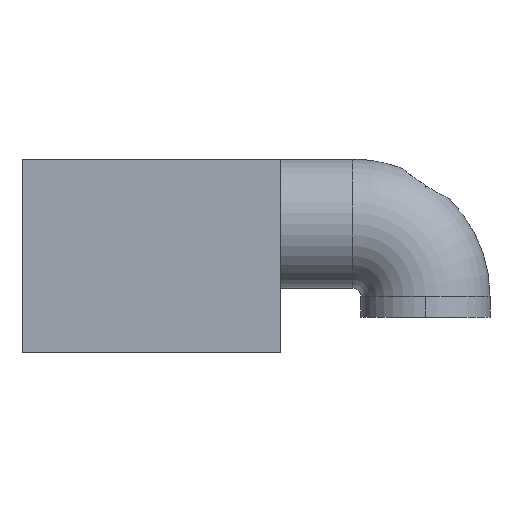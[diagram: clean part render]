
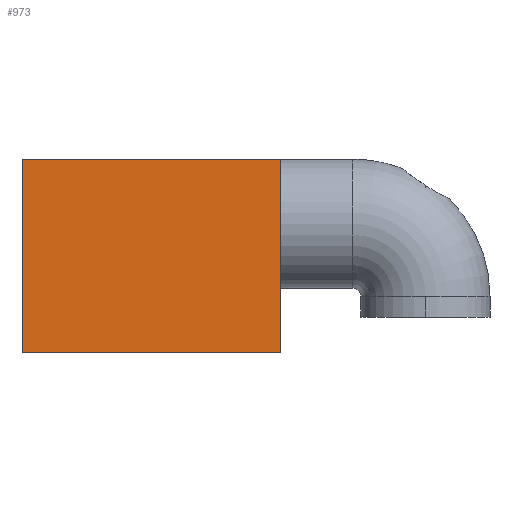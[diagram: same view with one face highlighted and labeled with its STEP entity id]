
A CAD part, left-side view. The second image highlights one B-rep face of the part: STEP entity #973.
In plain terms, the highlighted planar face has unit normal (-1, 0, 0).
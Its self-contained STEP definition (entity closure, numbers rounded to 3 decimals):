
#66 = EDGE_CURVE ( 'NONE', #462, #1476, #1333, .T. ) ;
#68 = EDGE_CURVE ( 'NONE', #1478, #462, #1329, .T. ) ;
#84 = EDGE_CURVE ( 'NONE', #1463, #1476, #1378, .T. ) ;
#110 = EDGE_CURVE ( 'NONE', #1478, #1463, #298, .T. ) ;
#174 = CARTESIAN_POINT ( 'NONE',  ( -37., -8., 12. ) ) ;
#206 = DIRECTION ( 'NONE',  ( 0., 0., -1. ) ) ;
#221 = DIRECTION ( 'NONE',  ( 0., 0., -1. ) ) ;
#298 = LINE ( 'NONE', #999, #300 ) ;
#300 = VECTOR ( 'NONE', #998, 1000. ) ;
#312 = FACE_OUTER_BOUND ( 'NONE', #1230, .T. ) ;
#374 = PLANE ( 'NONE',  #1189 ) ;
#376 = DIRECTION ( 'NONE',  ( 1., 0., 0. ) ) ;
#377 = DIRECTION ( 'NONE',  ( 0., 0., -1. ) ) ;
#408 = CARTESIAN_POINT ( 'NONE',  ( -37., -8., 12. ) ) ;
#462 = VERTEX_POINT ( 'NONE', #1056 ) ;
#597 = ORIENTED_EDGE ( 'NONE', *, *, #68, .T. ) ;
#598 = ORIENTED_EDGE ( 'NONE', *, *, #84, .F. ) ;
#622 = ORIENTED_EDGE ( 'NONE', *, *, #66, .T. ) ;
#624 = ORIENTED_EDGE ( 'NONE', *, *, #110, .F. ) ;
#896 = CARTESIAN_POINT ( 'NONE',  ( -37., -8., 0. ) ) ;
#900 = CARTESIAN_POINT ( 'NONE',  ( -37., 8., 12. ) ) ;
#901 = DIRECTION ( 'NONE',  ( 0., -1., 0. ) ) ;
#973 = ADVANCED_FACE ( 'NONE', ( #312 ), #374, .F. ) ;
#998 = DIRECTION ( 'NONE',  ( 0., -1., 0. ) ) ;
#999 = CARTESIAN_POINT ( 'NONE',  ( -37., -8., 12. ) ) ;
#1056 = CARTESIAN_POINT ( 'NONE',  ( -37., 8., 0. ) ) ;
#1189 = AXIS2_PLACEMENT_3D ( 'NONE', #408, #376, #377 ) ;
#1230 = EDGE_LOOP ( 'NONE', ( #622, #598, #624, #597 ) ) ;
#1329 = LINE ( 'NONE', #900, #1368 ) ;
#1333 = LINE ( 'NONE', #896, #1334 ) ;
#1334 = VECTOR ( 'NONE', #901, 1000. ) ;
#1368 = VECTOR ( 'NONE', #206, 1000. ) ;
#1378 = LINE ( 'NONE', #174, #1383 ) ;
#1383 = VECTOR ( 'NONE', #221, 1000. ) ;
#1463 = VERTEX_POINT ( 'NONE', #1556 ) ;
#1476 = VERTEX_POINT ( 'NONE', #1569 ) ;
#1478 = VERTEX_POINT ( 'NONE', #1571 ) ;
#1556 = CARTESIAN_POINT ( 'NONE',  ( -37., -8., 12. ) ) ;
#1569 = CARTESIAN_POINT ( 'NONE',  ( -37., -8., 0. ) ) ;
#1571 = CARTESIAN_POINT ( 'NONE',  ( -37., 8., 12. ) ) ;
